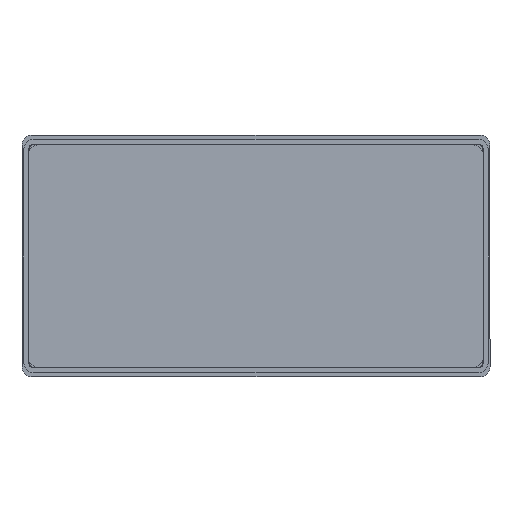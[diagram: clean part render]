
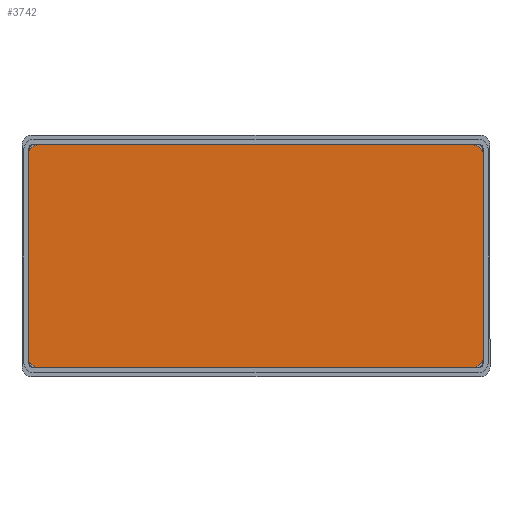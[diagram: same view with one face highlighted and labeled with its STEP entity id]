
A CAD part, front view. The second image highlights one B-rep face of the part: STEP entity #3742.
In plain terms, the highlighted planar face has unit normal (0, -1, 0) as drawn and (0, 0, 1) by its records, which use the part's own axes.
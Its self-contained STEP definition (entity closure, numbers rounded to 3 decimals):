
#106=PLANE('',#4071);
#268=FACE_OUTER_BOUND('',#468,.T.);
#468=EDGE_LOOP('',(#2639,#2640,#2641,#2642,#2643,#2644,#2645,#2646));
#688=LINE('',#5434,#1146);
#692=LINE('',#5446,#1150);
#696=LINE('',#5458,#1154);
#700=LINE('',#5468,#1158);
#1146=VECTOR('',#4371,1.);
#1150=VECTOR('',#4383,1.);
#1154=VECTOR('',#4395,1.);
#1158=VECTOR('',#4407,1.);
#1602=CIRCLE('',#4056,2.144);
#1604=CIRCLE('',#4060,2.144);
#1606=CIRCLE('',#4064,2.144);
#1608=CIRCLE('',#4068,2.144);
#1691=VERTEX_POINT('',#5425);
#1692=VERTEX_POINT('',#5427);
#1694=VERTEX_POINT('',#5433);
#1696=VERTEX_POINT('',#5439);
#1698=VERTEX_POINT('',#5445);
#1700=VERTEX_POINT('',#5451);
#1702=VERTEX_POINT('',#5457);
#1704=VERTEX_POINT('',#5463);
#2055=EDGE_CURVE('',#1692,#1691,#1602,.T.);
#2058=EDGE_CURVE('',#1694,#1692,#688,.T.);
#2061=EDGE_CURVE('',#1696,#1694,#1604,.T.);
#2064=EDGE_CURVE('',#1698,#1696,#692,.T.);
#2067=EDGE_CURVE('',#1700,#1698,#1606,.T.);
#2070=EDGE_CURVE('',#1702,#1700,#696,.T.);
#2073=EDGE_CURVE('',#1704,#1702,#1608,.T.);
#2076=EDGE_CURVE('',#1691,#1704,#700,.T.);
#2639=ORIENTED_EDGE('',*,*,#2076,.T.);
#2640=ORIENTED_EDGE('',*,*,#2073,.T.);
#2641=ORIENTED_EDGE('',*,*,#2070,.T.);
#2642=ORIENTED_EDGE('',*,*,#2067,.T.);
#2643=ORIENTED_EDGE('',*,*,#2064,.T.);
#2644=ORIENTED_EDGE('',*,*,#2061,.T.);
#2645=ORIENTED_EDGE('',*,*,#2058,.T.);
#2646=ORIENTED_EDGE('',*,*,#2055,.T.);
#3742=ADVANCED_FACE('',(#268),#106,.T.);
#4056=AXIS2_PLACEMENT_3D('',#5428,#4365,#4366);
#4060=AXIS2_PLACEMENT_3D('',#5440,#4377,#4378);
#4064=AXIS2_PLACEMENT_3D('',#5452,#4389,#4390);
#4068=AXIS2_PLACEMENT_3D('',#5464,#4401,#4402);
#4071=AXIS2_PLACEMENT_3D('',#5470,#4410,#4411);
#4365=DIRECTION('center_axis',(0.,0.,1.));
#4366=DIRECTION('ref_axis',(1.,0.,0.));
#4371=DIRECTION('',(0.,1.,0.));
#4377=DIRECTION('center_axis',(0.,0.,1.));
#4378=DIRECTION('ref_axis',(0.,-1.,0.));
#4383=DIRECTION('',(1.,0.,0.));
#4389=DIRECTION('center_axis',(0.,0.,1.));
#4390=DIRECTION('ref_axis',(-1.,0.,0.));
#4395=DIRECTION('',(0.,-1.,0.));
#4401=DIRECTION('center_axis',(0.,0.,1.));
#4402=DIRECTION('ref_axis',(0.,1.,0.));
#4407=DIRECTION('',(-1.,0.,0.));
#4410=DIRECTION('center_axis',(0.,0.,1.));
#4411=DIRECTION('ref_axis',(1.,0.,0.));
#5425=CARTESIAN_POINT('',(2792.032,1452.216,82.665));
#5427=CARTESIAN_POINT('',(2794.176,1450.072,82.665));
#5428=CARTESIAN_POINT('Origin',(2792.032,1450.072,82.665));
#5433=CARTESIAN_POINT('',(2794.176,1408.261,82.665));
#5434=CARTESIAN_POINT('',(2794.176,1450.072,82.665));
#5439=CARTESIAN_POINT('',(2792.032,1406.117,82.665));
#5440=CARTESIAN_POINT('Origin',(2792.032,1408.261,82.665));
#5445=CARTESIAN_POINT('',(2701.978,1406.117,82.665));
#5446=CARTESIAN_POINT('',(2792.032,1406.117,82.665));
#5451=CARTESIAN_POINT('',(2699.834,1408.261,82.665));
#5452=CARTESIAN_POINT('Origin',(2701.978,1408.261,82.665));
#5457=CARTESIAN_POINT('',(2699.834,1450.072,82.665));
#5458=CARTESIAN_POINT('',(2699.834,1408.261,82.665));
#5463=CARTESIAN_POINT('',(2701.978,1452.216,82.665));
#5464=CARTESIAN_POINT('Origin',(2701.978,1450.072,82.665));
#5468=CARTESIAN_POINT('',(2701.978,1452.216,82.665));
#5470=CARTESIAN_POINT('Origin',(2747.005,1429.167,82.665));
